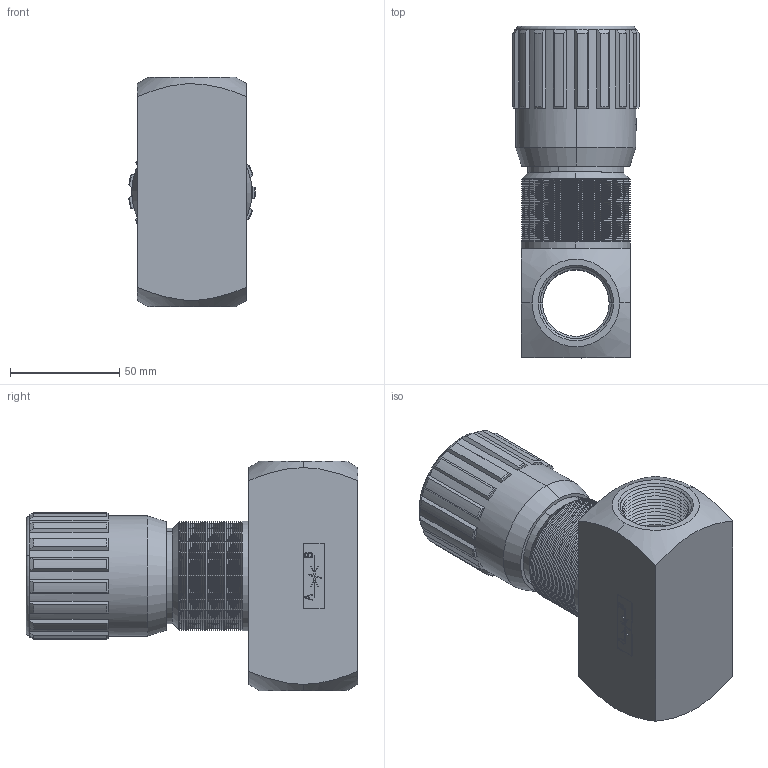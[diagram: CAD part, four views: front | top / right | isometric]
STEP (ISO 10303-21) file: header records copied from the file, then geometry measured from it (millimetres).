
FILE_DESCRIPTION (( 'STEP AP214' ), '1' );
FILE_NAME ('2257-2-100.STEP', '2015-04-11T12:03:58', ( '' ), ( '' ), 'SwSTEP 2.0', 'SolidWorks 2014', '' );
FILE_SCHEMA (( 'AUTOMOTIVE_DESIGN' ));
Length unit declared in the file: millimetre
Products named in the file (1): 2257-2-100
Bounding box: 57.85 x 151.8 x 105 mm (x, y, z)
Surface area: 61623.5 mm2 (no closed solid volume)
Topology: 0 solids, 19 shells, 694 faces, 2393 edges, 1640 vertices
Faces by surface type: plane 303, cone 273, bspline 59, cylinder 57, torus 2
Entity records: 38208 total; most frequent: CARTESIAN_POINT 10836, ORIENTED_EDGE 3832, DIRECTION 3815, EDGE_CURVE 2393, VERTEX_POINT 1640, VECTOR 1553, LINE 1553, AXIS2_PLACEMENT_3D 1131
